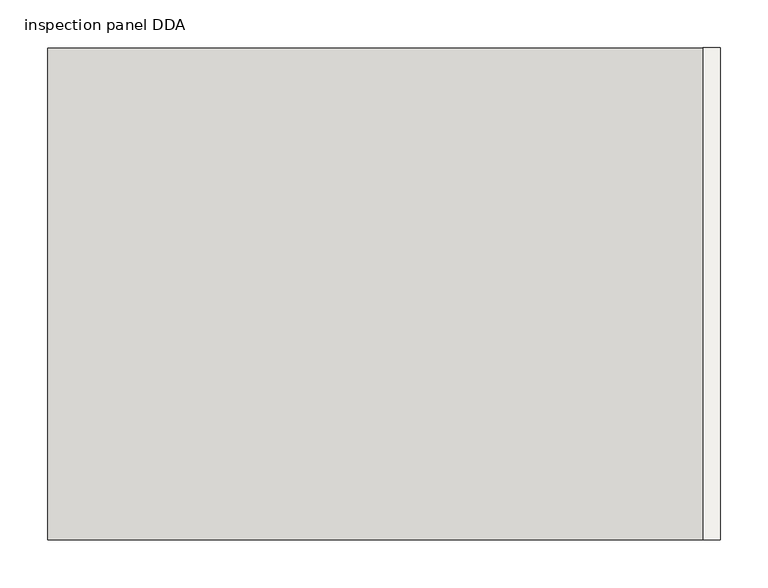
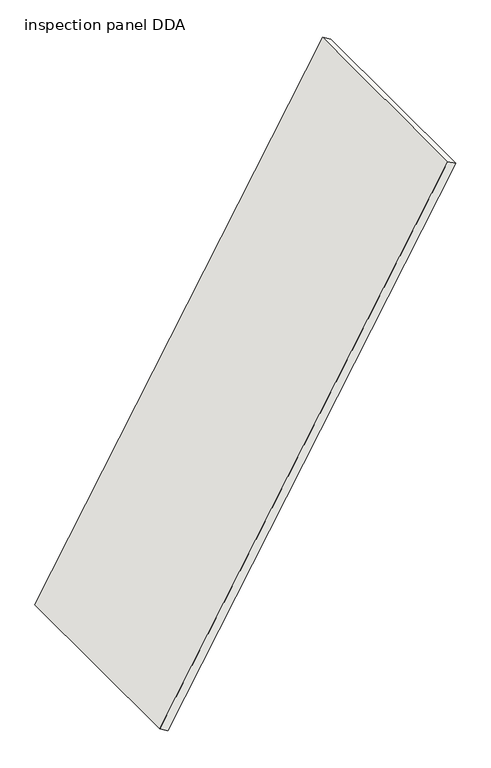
"""IFC4 building model written with IfcOpenShell, lengths in millimetres: covering geometry, M&G_5-_GM_WPB_Delta Discovery Air_insp panel-SH_BERSfr : inspection panel DDA."""

from ifc_helpers import new_model, si_unit, frame, origin, place, context, project, spatial, polyline, outline, extrude, source, transform, mapped, element, save


def inspection_panel_dda_a83ceb8f(model_context):
    return source(origin(), model_context, "Body", "SweptSolid", [
        extrude(outline(polyline([(0.0, -515.0), (0.0, 0.0), (21.0, 0.0), (21.0, -515.0), (0.0, -515.0)])), frame((-342.5, 257.5, -593.2274016), z_axis=(0.5000000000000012, 0.0, 0.866025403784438), x_axis=(0.866025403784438, 0.0, -0.5000000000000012)), (0.0, 0.0, 1.0), 1370.0),
    ])


if __name__ == "__main__":
    model = new_model("IFC4")
    model_context = context("Model", 3, world=origin())
    ifc_project = project(units=[si_unit("LENGTHUNIT", "METRE", prefix="MILLI")], contexts=[model_context])
    site = spatial("IfcSite", under=ifc_project)
    building = spatial("IfcBuilding", under=site)
    placement = place(None, origin())
    inspection_panel_dda_shape = inspection_panel_dda_a83ceb8f(model_context)
    element("IfcCovering", 1, ObjectType="M&G_5-_GM_WPB_Delta Discovery Air_insp panel-SH_BERSfr : inspection panel DDA", at=placement, inside=building, context=model_context, shape_type="MappedRepresentation", body=[
        mapped(inspection_panel_dda_shape, transform((0.0, 0.0, 0.0), x_axis=(1.0, 0.0, 0.0), y_axis=(0.0, 1.0, 0.0), z_axis=(0.0, 0.0, 1.0))),
    ])
    save(model, "model.ifc")
